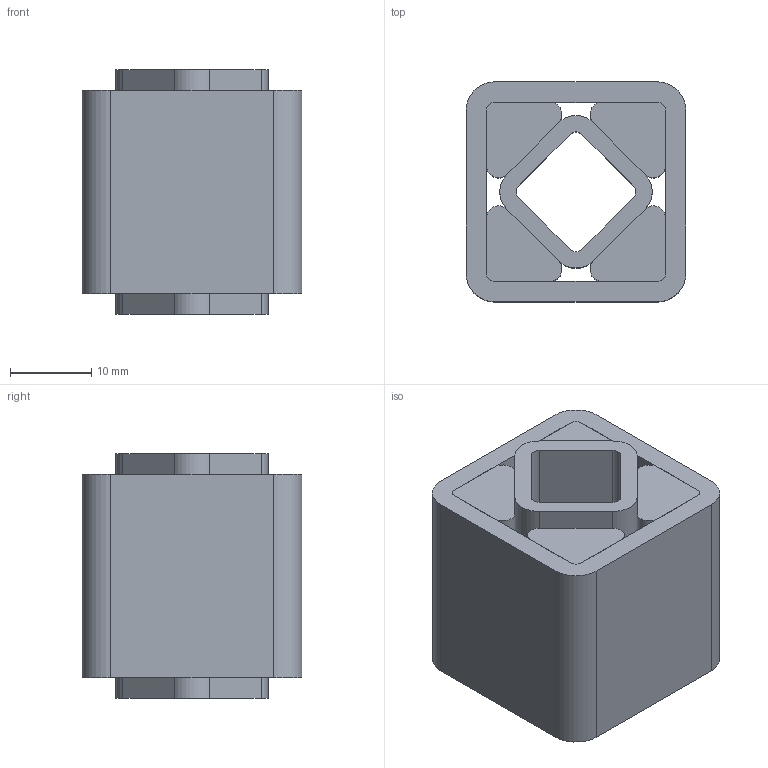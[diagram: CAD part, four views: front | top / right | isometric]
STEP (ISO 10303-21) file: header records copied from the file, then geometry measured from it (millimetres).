
FILE_DESCRIPTION((''),'2;1');
FILE_NAME('D:\ROSTA\Gummifederelemente\3D\DR-S15x25_01021004.stp','2005-02-02T16:20:40',('Administrator'),(''),'Autodesk Inventor 8','Autodesk Inventor 8','');
FILE_SCHEMA(('AUTOMOTIVE_DESIGN { 1 0 10303 214 1 1 1 1 }'));
Length unit declared in the file: millimetre
Products named in the file (4): Baugruppe1; 4.4.3726-001; 4.4.3726-002; 4.4.3726-003
Assembly tree (6 placements, depth 2):
  Baugruppe1
    4.4.3726-001
    4.4.3726-002
    4.4.3726-003  x4
Bounding box: 27 x 27 x 30 mm (x, y, z)
Volume: 14710.3 mm3; surface area: 11864.2 mm2
Topology: 6 solids, 6 shells, 68 faces, 168 edges, 112 vertices
Faces by surface type: plane 40, cylinder 28
Entity records: 1491 total; most frequent: DIRECTION 260, CARTESIAN_POINT 244, ORIENTED_EDGE 228, EDGE_CURVE 114, AXIS2_PLACEMENT_3D 92, VERTEX_POINT 76, VECTOR 76, LINE 76
